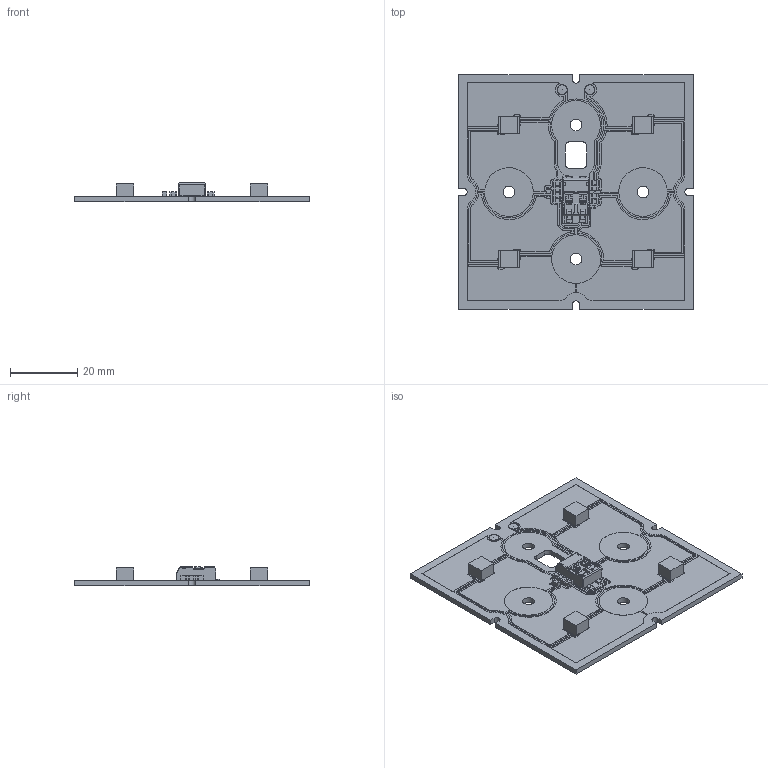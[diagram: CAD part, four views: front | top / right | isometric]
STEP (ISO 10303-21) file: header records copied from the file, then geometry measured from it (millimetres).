
FILE_DESCRIPTION(('STEP AP214'),'1');
FILE_NAME('4422-409-98461.step','2017-10-27T09:37:00',(' '),(' '),'Spatial InterOp 3D',' ',' ');
FILE_SCHEMA(('automotive_design'));
Length unit declared in the file: millimetre
Products named in the file (31): DesignRootModel; uid__1; Submodel-C:\Users\310236793\Documents\FastFlex 2x2\8222-646-47472\PCB\Layout\3D\Input_S\CAPACITOR_SMD_0805_06-08-13_1.35.xtd; CAPACITOR_SMD_0805_06-08-13_1.35; Submodel-442240857561_part_simplified; Submodel-C:\Users\310236793\Documents\FastFlex 2x2\8222-646-47472\PCB\Layout\3D\Input_S\TESTPOINT_3MM_SP_13-06-16_0.035.xtd; TESTPOINT_3MM_SP_13-06-16_0.035; Submodel-func_dia030_ref_part_simplified; Submodel-C:\Users\310236793\Documents\FastFlex 2x2\8222-646-47472\PCB\Layout\3D\Input_S\CONNECTOR_SMD_MOLEX-2P_1041880210_04-12-14_4.1.xtd; CONNECTOR_SMD_MOLEX-2P_1041880210_04-12-14_4.1; Submodel-242201520329_part_simplified; Submodel-noModelForPart_822264649101_1875675177; placementOutline; Submodel-822264649101_1875675177_part; Submodel-noModelForPart_822264649101_3263846097; Submodel-822264649101_3263846097_part; uid__471; ProductRootModel
Assembly tree (41 placements, depth 5):
  ProductRootModel
    DesignRootModel
      uid__1
      uid__1
      uid__1
      uid__1
      uid__1
      uid__1
      uid__1
      uid__1
      uid__1
      Submodel-442240857561_part_simplified  x9
        Submodel-C:\Users\310236793\Documents\FastFlex 2x2\8222-646-47472\PCB\Layout\3D\Input_S\CAPACITOR_SMD_0805_06-08-13_1.35.xtd
          CAPACITOR_SMD_0805_06-08-13_1.35
      Submodel-func_dia030_ref_part_simplified  x2
        Submodel-C:\Users\310236793\Documents\FastFlex 2x2\8222-646-47472\PCB\Layout\3D\Input_S\TESTPOINT_3MM_SP_13-06-16_0.035.xtd
          TESTPOINT_3MM_SP_13-06-16_0.035
      Submodel-242201520329_part_simplified
        Submodel-C:\Users\310236793\Documents\FastFlex 2x2\8222-646-47472\PCB\Layout\3D\Input_S\CONNECTOR_SMD_MOLEX-2P_1041880210_04-12-14_4.1.xtd
          CONNECTOR_SMD_MOLEX-2P_1041880210_04-12-14_4.1
      Submodel-822264649101_1875675177_part  x2
        Submodel-noModelForPart_822264649101_1875675177
          placementOutline
          placementOutline
          placementOutline
      Submodel-822264649101_3263846097_part  x2
        Submodel-noModelForPart_822264649101_3263846097
          placementOutline
          placementOutline
          placementOutline
      uid__471
Bounding box: 70 x 70 x 5.89 mm (x, y, z)
Volume: 8566.3 mm3; surface area: 17641 mm2
Topology: 52 solids, 52 shells, 1354 faces, 3679 edges, 2433 vertices
Faces by surface type: plane 772, cylinder 546, torus 20, bspline 8, cone 6, sphere 2
Full cylindrical faces by diameter (mm): 3 x2, 3.5 x4
Entity records: 49708 total; most frequent: CARTESIAN_POINT 7971, DIRECTION 6868, ORIENTED_EDGE 6612, EDGE_CURVE 3306, AXIS2_PLACEMENT_3D 2359, VERTEX_POINT 2188, LINE 2150, VECTOR 2150
